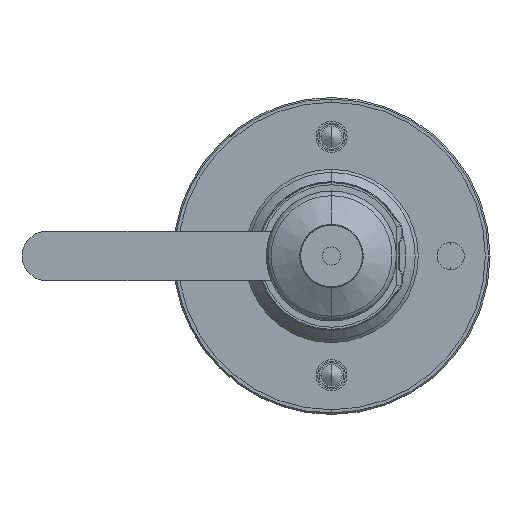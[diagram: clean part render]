
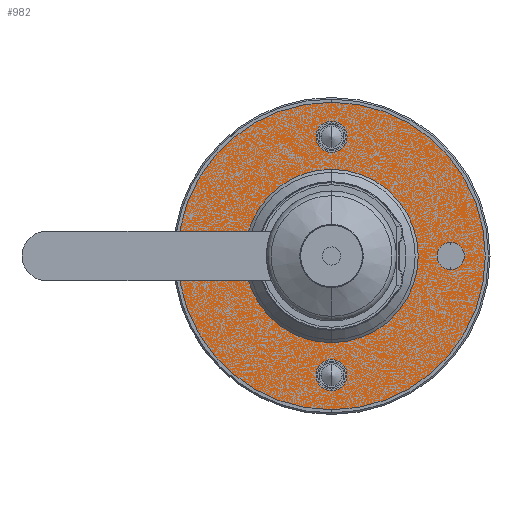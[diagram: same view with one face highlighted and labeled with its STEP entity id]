
A CAD part, front view. The second image highlights one B-rep face of the part: STEP entity #982.
In plain terms, the highlighted planar face has unit normal (0, -1, 0) as drawn and (0, 0, -1) by its records, which use the part's own axes.
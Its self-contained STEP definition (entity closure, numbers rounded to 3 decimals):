
#348 = CIRCLE ( 'NONE', #14515, 4.4 ) ;
#372 = FACE_BOUND ( 'NONE', #597, .T. ) ;
#512 = FACE_BOUND ( 'NONE', #11956, .T. ) ;
#597 = EDGE_LOOP ( 'NONE', ( #8861, #13719 ) ) ;
#606 = CIRCLE ( 'NONE', #4042, 22. ) ;
#982 = ADVANCED_FACE ( 'NONE', ( #30136, #512, #4933, #12137, #14128, #372 ), #4649, .T. ) ;
#997 = CARTESIAN_POINT ( 'NONE',  ( -4.4, -38.5, 0. ) ) ;
#1011 = EDGE_LOOP ( 'NONE', ( #16863, #29301 ) ) ;
#1514 = CIRCLE ( 'NONE', #18558, 4.4 ) ;
#1532 = VERTEX_POINT ( 'NONE', #18181 ) ;
#1582 = ORIENTED_EDGE ( 'NONE', *, *, #17293, .T. ) ;
#1606 = AXIS2_PLACEMENT_3D ( 'NONE', #2147, #20613, #27930 ) ;
#2147 = CARTESIAN_POINT ( 'NONE',  ( 0., 0., 0. ) ) ;
#2504 = DIRECTION ( 'NONE',  ( -1., 0., 0. ) ) ;
#2876 = DIRECTION ( 'NONE',  ( -1., 0., 0. ) ) ;
#3794 = CARTESIAN_POINT ( 'NONE',  ( -38.5, 0., 0. ) ) ;
#3806 = CARTESIAN_POINT ( 'NONE',  ( -4.4, 38.5, 0. ) ) ;
#3839 = DIRECTION ( 'NONE',  ( -1., 0., 0. ) ) ;
#3918 = VERTEX_POINT ( 'NONE', #997 ) ;
#4042 = AXIS2_PLACEMENT_3D ( 'NONE', #6317, #10749, #18216 ) ;
#4055 = EDGE_CURVE ( 'NONE', #9153, #26601, #1514, .T. ) ;
#4061 = AXIS2_PLACEMENT_3D ( 'NONE', #8633, #24490, #27092 ) ;
#4649 = PLANE ( 'NONE',  #24655 ) ;
#4680 = AXIS2_PLACEMENT_3D ( 'NONE', #22392, #20395, #13114 ) ;
#4779 = CARTESIAN_POINT ( 'NONE',  ( 22., 0., 0. ) ) ;
#4933 = FACE_BOUND ( 'NONE', #1011, .T. ) ;
#5520 = AXIS2_PLACEMENT_3D ( 'NONE', #22678, #23260, #15826 ) ;
#6003 = CIRCLE ( 'NONE', #14304, 5. ) ;
#6211 = CARTESIAN_POINT ( 'NONE',  ( 38.5, 0., 0. ) ) ;
#6289 = EDGE_CURVE ( 'NONE', #14080, #24210, #22573, .T. ) ;
#6317 = CARTESIAN_POINT ( 'NONE',  ( 0., 0., 0. ) ) ;
#6419 = DIRECTION ( 'NONE',  ( 0., 0., 1. ) ) ;
#6932 = DIRECTION ( 'NONE',  ( 0., 0., -1. ) ) ;
#7383 = EDGE_CURVE ( 'NONE', #7975, #3918, #27831, .T. ) ;
#7528 = CARTESIAN_POINT ( 'NONE',  ( 4.4, 38.5, 0. ) ) ;
#7975 = VERTEX_POINT ( 'NONE', #15815 ) ;
#8129 = CIRCLE ( 'NONE', #30042, 4.4 ) ;
#8467 = VERTEX_POINT ( 'NONE', #23355 ) ;
#8633 = CARTESIAN_POINT ( 'NONE',  ( 38.5, 0., 0. ) ) ;
#8861 = ORIENTED_EDGE ( 'NONE', *, *, #6289, .T. ) ;
#8941 = CIRCLE ( 'NONE', #5520, 5. ) ;
#9153 = VERTEX_POINT ( 'NONE', #7528 ) ;
#9329 = VERTEX_POINT ( 'NONE', #19726 ) ;
#9368 = AXIS2_PLACEMENT_3D ( 'NONE', #25008, #11281, #27731 ) ;
#10383 = EDGE_CURVE ( 'NONE', #21658, #18926, #26509, .T. ) ;
#10411 = CIRCLE ( 'NONE', #4061, 5. ) ;
#10527 = DIRECTION ( 'NONE',  ( -1., 0., 0. ) ) ;
#10749 = DIRECTION ( 'NONE',  ( 0., 0., 1. ) ) ;
#11281 = DIRECTION ( 'NONE',  ( 0., 0., 1. ) ) ;
#11518 = EDGE_CURVE ( 'NONE', #23665, #8467, #6003, .T. ) ;
#11627 = ORIENTED_EDGE ( 'NONE', *, *, #26714, .T. ) ;
#11956 = EDGE_LOOP ( 'NONE', ( #22546, #25634 ) ) ;
#12137 = FACE_BOUND ( 'NONE', #23051, .T. ) ;
#13114 = DIRECTION ( 'NONE',  ( -1., 0., 0. ) ) ;
#13551 = DIRECTION ( 'NONE',  ( 0., 0., 1. ) ) ;
#13719 = ORIENTED_EDGE ( 'NONE', *, *, #19175, .T. ) ;
#14080 = VERTEX_POINT ( 'NONE', #4779 ) ;
#14128 = FACE_BOUND ( 'NONE', #16247, .T. ) ;
#14304 = AXIS2_PLACEMENT_3D ( 'NONE', #6211, #13551, #20390 ) ;
#14351 = AXIS2_PLACEMENT_3D ( 'NONE', #3794, #26543, #10527 ) ;
#14515 = AXIS2_PLACEMENT_3D ( 'NONE', #29314, #6419, #29760 ) ;
#14714 = AXIS2_PLACEMENT_3D ( 'NONE', #23023, #28867, #3839 ) ;
#14787 = CIRCLE ( 'NONE', #1606, 49.675 ) ;
#15810 = ORIENTED_EDGE ( 'NONE', *, *, #11518, .T. ) ;
#15815 = CARTESIAN_POINT ( 'NONE',  ( 4.4, -38.5, 0. ) ) ;
#15826 = DIRECTION ( 'NONE',  ( -1., 0., 0. ) ) ;
#16203 = EDGE_CURVE ( 'NONE', #1532, #9329, #14787, .T. ) ;
#16247 = EDGE_LOOP ( 'NONE', ( #25990, #28320 ) ) ;
#16717 = CARTESIAN_POINT ( 'NONE',  ( 22., 0., 0. ) ) ;
#16863 = ORIENTED_EDGE ( 'NONE', *, *, #29999, .T. ) ;
#17293 = EDGE_CURVE ( 'NONE', #8467, #23665, #10411, .T. ) ;
#17310 = EDGE_LOOP ( 'NONE', ( #22552, #11627 ) ) ;
#17489 = EDGE_CURVE ( 'NONE', #18926, #21658, #8941, .T. ) ;
#17923 = CARTESIAN_POINT ( 'NONE',  ( 33.5, 0., 0. ) ) ;
#18181 = CARTESIAN_POINT ( 'NONE',  ( 49.675, 0., 0. ) ) ;
#18216 = DIRECTION ( 'NONE',  ( 1., 0., 0. ) ) ;
#18242 = CARTESIAN_POINT ( 'NONE',  ( 0., 38.5, 0. ) ) ;
#18558 = AXIS2_PLACEMENT_3D ( 'NONE', #18242, #24497, #29687 ) ;
#18926 = VERTEX_POINT ( 'NONE', #26786 ) ;
#19175 = EDGE_CURVE ( 'NONE', #24210, #14080, #606, .T. ) ;
#19620 = CARTESIAN_POINT ( 'NONE',  ( -33.5, 0., 0. ) ) ;
#19726 = CARTESIAN_POINT ( 'NONE',  ( -49.675, 0., 0. ) ) ;
#19882 = CARTESIAN_POINT ( 'NONE',  ( -22., 0., 0. ) ) ;
#20390 = DIRECTION ( 'NONE',  ( -1., 0., 0. ) ) ;
#20395 = DIRECTION ( 'NONE',  ( 0., 0., -1. ) ) ;
#20613 = DIRECTION ( 'NONE',  ( 0., 0., -1. ) ) ;
#21658 = VERTEX_POINT ( 'NONE', #19620 ) ;
#21746 = CIRCLE ( 'NONE', #4680, 49.675 ) ;
#21805 = CARTESIAN_POINT ( 'NONE',  ( 0., 38.5, 0. ) ) ;
#22392 = CARTESIAN_POINT ( 'NONE',  ( 0., 0., 0. ) ) ;
#22546 = ORIENTED_EDGE ( 'NONE', *, *, #28089, .T. ) ;
#22552 = ORIENTED_EDGE ( 'NONE', *, *, #16203, .T. ) ;
#22573 = CIRCLE ( 'NONE', #9368, 22. ) ;
#22678 = CARTESIAN_POINT ( 'NONE',  ( -38.5, 0., 0. ) ) ;
#23023 = CARTESIAN_POINT ( 'NONE',  ( 0., -38.5, 0. ) ) ;
#23051 = EDGE_LOOP ( 'NONE', ( #15810, #1582 ) ) ;
#23260 = DIRECTION ( 'NONE',  ( 0., 0., 1. ) ) ;
#23355 = CARTESIAN_POINT ( 'NONE',  ( 43.5, 0., 0. ) ) ;
#23665 = VERTEX_POINT ( 'NONE', #17923 ) ;
#24210 = VERTEX_POINT ( 'NONE', #19882 ) ;
#24490 = DIRECTION ( 'NONE',  ( 0., 0., 1. ) ) ;
#24497 = DIRECTION ( 'NONE',  ( 0., 0., 1. ) ) ;
#24655 = AXIS2_PLACEMENT_3D ( 'NONE', #16717, #6932, #2504 ) ;
#25008 = CARTESIAN_POINT ( 'NONE',  ( 0., 0., 0. ) ) ;
#25634 = ORIENTED_EDGE ( 'NONE', *, *, #7383, .T. ) ;
#25990 = ORIENTED_EDGE ( 'NONE', *, *, #17489, .T. ) ;
#26509 = CIRCLE ( 'NONE', #14351, 5. ) ;
#26543 = DIRECTION ( 'NONE',  ( 0., 0., 1. ) ) ;
#26601 = VERTEX_POINT ( 'NONE', #3806 ) ;
#26714 = EDGE_CURVE ( 'NONE', #9329, #1532, #21746, .T. ) ;
#26786 = CARTESIAN_POINT ( 'NONE',  ( -43.5, 0., 0. ) ) ;
#27092 = DIRECTION ( 'NONE',  ( -1., 0., 0. ) ) ;
#27731 = DIRECTION ( 'NONE',  ( 1., 0., 0. ) ) ;
#27831 = CIRCLE ( 'NONE', #14714, 4.4 ) ;
#27930 = DIRECTION ( 'NONE',  ( -1., 0., 0. ) ) ;
#28089 = EDGE_CURVE ( 'NONE', #3918, #7975, #348, .T. ) ;
#28320 = ORIENTED_EDGE ( 'NONE', *, *, #10383, .T. ) ;
#28359 = DIRECTION ( 'NONE',  ( 0., 0., 1. ) ) ;
#28867 = DIRECTION ( 'NONE',  ( 0., 0., 1. ) ) ;
#29301 = ORIENTED_EDGE ( 'NONE', *, *, #4055, .T. ) ;
#29314 = CARTESIAN_POINT ( 'NONE',  ( 0., -38.5, 0. ) ) ;
#29687 = DIRECTION ( 'NONE',  ( -1., 0., 0. ) ) ;
#29760 = DIRECTION ( 'NONE',  ( -1., 0., 0. ) ) ;
#29999 = EDGE_CURVE ( 'NONE', #26601, #9153, #8129, .T. ) ;
#30042 = AXIS2_PLACEMENT_3D ( 'NONE', #21805, #28359, #2876 ) ;
#30136 = FACE_OUTER_BOUND ( 'NONE', #17310, .T. ) ;
